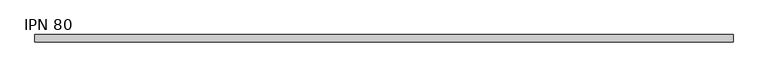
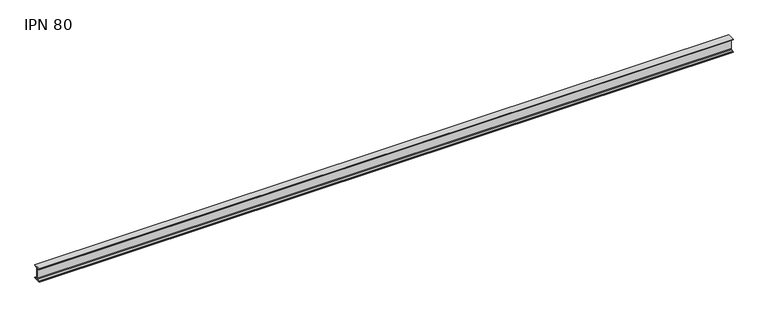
"""IFC4 building model written with IfcOpenShell, lengths in millimetres: beam geometry, IPN - Secciones en I con alas cónicas : IPN 80."""

from ifc_helpers import new_model, si_unit, point, frame, frame_2d, origin, place, context, project, spatial, polyline, circle_curve, trimmed, segment, composite_curve, outline, extrude, source, transform, mapped, element, save


def ipn_80_ef243860(model_context):
    return source(origin(), model_context, "Body", "SweptSolid", [
        extrude(outline(composite_curve([segment(polyline([(21.0, 40.0), (21.0, 37.5704306)]), True, "CONTINUOUS"), segment(trimmed(circle_curve(frame_2d((18.7, 37.5704306)), 2.3), [point((21.0, 37.5704306))], [point((19.01889, 35.2926446))], False, "CARTESIAN"), True, "CONTINUOUS"), segment(polyline([(19.01889, 35.2926446), (5.3092734, 33.3732983)]), True, "CONTINUOUS"), segment(trimmed(circle_curve(frame_2d((5.85, 29.5109655)), 3.9), [point((5.3092734, 33.3732983))], [point((1.95, 29.5109655))], True, "CARTESIAN"), True, "CONTINUOUS"), segment(polyline([(1.95, 29.5109655), (1.95, -29.5109655)]), True, "CONTINUOUS"), segment(trimmed(circle_curve(frame_2d((5.85, -29.5109655)), 3.9), [point((1.95, -29.5109655))], [point((5.3092734, -33.3732983))], True, "CARTESIAN"), True, "CONTINUOUS"), segment(polyline([(5.3092734, -33.3732983), (19.01889, -35.2926446)]), True, "CONTINUOUS"), segment(trimmed(circle_curve(frame_2d((18.7, -37.5704306)), 2.3), [point((19.01889, -35.2926446))], [point((21.0, -37.5704306))], False, "CARTESIAN"), True, "CONTINUOUS"), segment(polyline([(21.0, -37.5704306), (21.0, -40.0), (-21.0, -40.0), (-21.0, -37.5704306)]), True, "CONTINUOUS"), segment(trimmed(circle_curve(frame_2d((-18.7, -37.5704306)), 2.3), [point((-21.0, -37.5704306))], [point((-19.01889, -35.2926446))], False, "CARTESIAN"), True, "CONTINUOUS"), segment(polyline([(-19.01889, -35.2926446), (-5.3092734, -33.3732983)]), True, "CONTINUOUS"), segment(trimmed(circle_curve(frame_2d((-5.85, -29.5109655)), 3.9), [point((-5.3092734, -33.3732983))], [point((-1.95, -29.5109655))], True, "CARTESIAN"), True, "CONTINUOUS"), segment(polyline([(-1.95, -29.5109655), (-1.95, 29.5109655)]), True, "CONTINUOUS"), segment(trimmed(circle_curve(frame_2d((-5.85, 29.5109655)), 3.9), [point((-1.95, 29.5109655))], [point((-5.3092734, 33.3732983))], True, "CARTESIAN"), True, "CONTINUOUS"), segment(polyline([(-5.3092734, 33.3732983), (-19.01889, 35.2926446)]), True, "CONTINUOUS"), segment(trimmed(circle_curve(frame_2d((-18.7, 37.5704306)), 2.3), [point((-19.01889, 35.2926446))], [point((-21.0, 37.5704306))], False, "CARTESIAN"), True, "CONTINUOUS"), segment(polyline([(-21.0, 37.5704306), (-21.0, 40.0), (21.0, 40.0)]), True, "CONTINUOUS")], self_intersect=False)), frame((-1991.35, 0.0, 0.0), z_axis=(1.0, 0.0, 0.0), x_axis=(0.0, 1.0, 0.0)), (0.0, 0.0, 1.0), 3988.65),
    ])


if __name__ == "__main__":
    model = new_model("IFC4")
    model_context = context("Model", 3, world=origin())
    ifc_project = project(units=[si_unit("LENGTHUNIT", "METRE", prefix="MILLI")], contexts=[model_context])
    site = spatial("IfcSite", under=ifc_project)
    building = spatial("IfcBuilding", under=site)
    placement = place(None, origin())
    ipn_80_shape = ipn_80_ef243860(model_context)
    element("IfcBeam", 1, ObjectType="IPN - Secciones en I con alas cónicas : IPN 80", at=placement, inside=building, context=model_context, shape_type="MappedRepresentation", body=[
        mapped(ipn_80_shape, transform((0.0, 0.0, 0.0), x_axis=(1.0, 0.0, 0.0), y_axis=(0.0, 1.0, 0.0), z_axis=(0.0, 0.0, 1.0))),
    ])
    save(model, "model.ifc")
